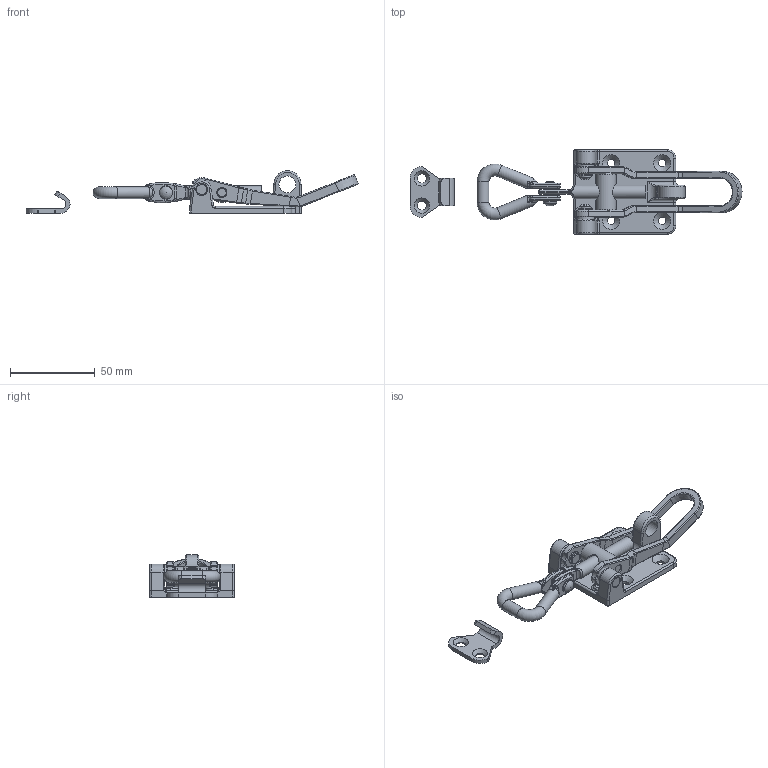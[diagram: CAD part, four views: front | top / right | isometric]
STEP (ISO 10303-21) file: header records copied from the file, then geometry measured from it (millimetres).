
FILE_DESCRIPTION(/* description */ (''),/* implementation_level */ '2;1');
FILE_NAME(/* name */ '\\NAS\db20\C-M15\DR_C-M15.stp',/* time_stamp */ '2018-03-01T11:30:42+09:00',/* author */ ('user'),/* organization */ (''),/* preprocessor_version */ 'ST-DEVELOPER v15.6',/* originating_system */ 'Autodesk Inventor 2015',/* authorisation */ '');
FILE_SCHEMA (('AUTOMOTIVE_DESIGN { 1 0 10303 214 3 1 1 }'));
Length unit declared in the file: millimetre
Products named in the file (8): DR_C-M15-B; DR_C-M15-C; DR_C-M15-CA; DR_C-M15-CC; DR_C-M15-P; DR_C-M15-R; DR_E링14; DR_C-M15
Bounding box: 195.66 x 50 x 25 mm (x, y, z)
Volume: 34358.6 mm3; surface area: 22806.5 mm2
Topology: 10 solids, 10 shells, 588 faces, 1372 edges, 808 vertices
Faces by surface type: cylinder 208, bspline 176, plane 107, torus 72, cone 16, sphere 9
Full cylindrical faces by diameter (mm): 4 x4, 4.5 x4, 5 x1, 5.5 x2, 6 x10, 7 x7, 8 x3, 10 x3, 12 x1
Entity records: 19675 total; most frequent: CARTESIAN_POINT 7327, DIRECTION 2541, ORIENTED_EDGE 2488, EDGE_CURVE 1244, AXIS2_PLACEMENT_3D 1102, VERTEX_POINT 757, EDGE_LOOP 663, CIRCLE 603
